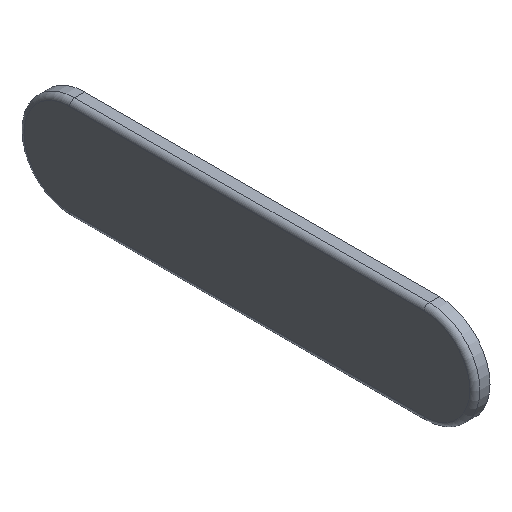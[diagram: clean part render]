
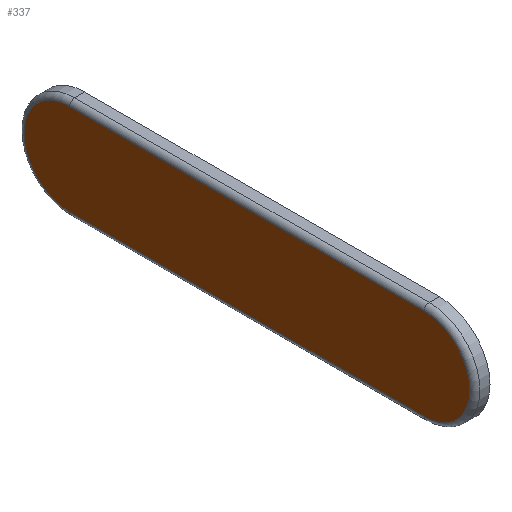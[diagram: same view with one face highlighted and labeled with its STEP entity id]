
A CAD part, isometric view. The second image highlights one B-rep face of the part: STEP entity #337.
In plain terms, the highlighted planar face has unit normal (-1, 0, 0).
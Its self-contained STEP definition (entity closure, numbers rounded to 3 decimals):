
#24=PLANE('',#386);
#35=LINE('',#561,#53);
#38=LINE('',#571,#56);
#53=VECTOR('',#439,10.);
#56=VECTOR('',#452,10.);
#89=FACE_OUTER_BOUND('',#115,.T.);
#115=EDGE_LOOP('',(#265,#266,#267,#268));
#146=CIRCLE('',#375,5.4);
#149=CIRCLE('',#380,5.4);
#169=VERTEX_POINT('',#549);
#172=VERTEX_POINT('',#554);
#174=VERTEX_POINT('',#559);
#176=VERTEX_POINT('',#565);
#200=EDGE_CURVE('',#172,#169,#146,.T.);
#202=EDGE_CURVE('',#174,#172,#35,.T.);
#205=EDGE_CURVE('',#176,#174,#149,.T.);
#208=EDGE_CURVE('',#169,#176,#38,.T.);
#265=ORIENTED_EDGE('',*,*,#200,.F.);
#266=ORIENTED_EDGE('',*,*,#202,.F.);
#267=ORIENTED_EDGE('',*,*,#205,.F.);
#268=ORIENTED_EDGE('',*,*,#208,.F.);
#337=ADVANCED_FACE('',(#89),#24,.F.);
#375=AXIS2_PLACEMENT_3D('',#556,#433,#434);
#380=AXIS2_PLACEMENT_3D('',#567,#445,#446);
#386=AXIS2_PLACEMENT_3D('',#582,#463,#464);
#433=DIRECTION('center_axis',(1.,0.,0.));
#434=DIRECTION('ref_axis',(0.,1.,0.));
#439=DIRECTION('',(0.,1.,0.));
#445=DIRECTION('center_axis',(1.,0.,0.));
#446=DIRECTION('ref_axis',(0.,-1.,0.));
#452=DIRECTION('',(0.,-1.,0.));
#463=DIRECTION('center_axis',(1.,0.,0.));
#464=DIRECTION('ref_axis',(0.,0.,-1.));
#549=CARTESIAN_POINT('',(-41.9,33.,-6.6));
#554=CARTESIAN_POINT('',(-41.9,33.,-17.4));
#556=CARTESIAN_POINT('Origin',(-41.9,33.,-12.));
#559=CARTESIAN_POINT('',(-41.9,-9.,-17.4));
#561=CARTESIAN_POINT('',(-41.9,12.,-17.4));
#565=CARTESIAN_POINT('',(-41.9,-9.,-6.6));
#567=CARTESIAN_POINT('Origin',(-41.9,-9.,-12.));
#571=CARTESIAN_POINT('',(-41.9,12.,-6.6));
#582=CARTESIAN_POINT('Origin',(-41.9,12.,-12.));
